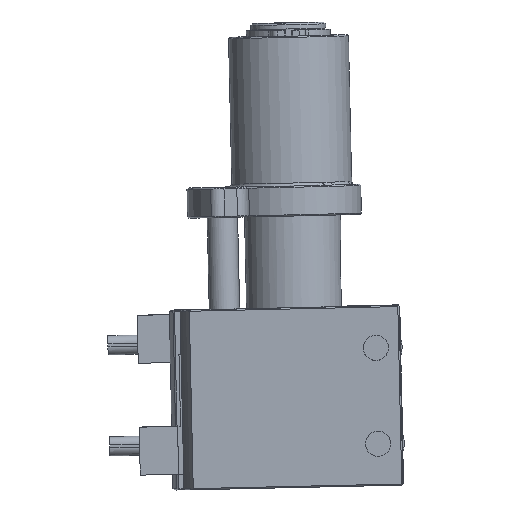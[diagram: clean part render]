
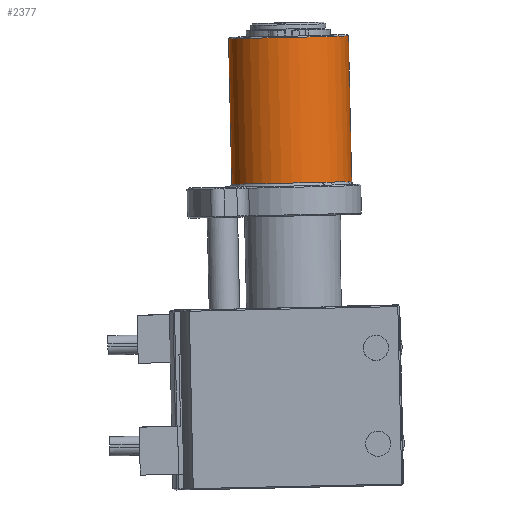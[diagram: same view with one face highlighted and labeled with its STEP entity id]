
A CAD part, top view. The second image highlights one B-rep face of the part: STEP entity #2377.
In plain terms, the highlighted cylindrical face has radius 10 mm (diameter 20 mm), a partial arc.
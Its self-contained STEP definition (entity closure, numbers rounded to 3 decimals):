
#559 = CIRCLE ( 'NONE', #2722, 10. ) ;
#596 = VECTOR ( 'NONE', #5015, 1000. ) ;
#732 = CARTESIAN_POINT ( 'NONE',  ( -6.629, 50.558, 29.319 ) ) ;
#1621 = ORIENTED_EDGE ( 'NONE', *, *, #10877, .T. ) ;
#2079 = EDGE_LOOP ( 'NONE', ( #1621, #3554, #11123, #11951 ) ) ;
#2377 = ADVANCED_FACE ( 'NONE', ( #14337 ), #13502, .T. ) ;
#2722 = AXIS2_PLACEMENT_3D ( 'NONE', #13330, #5371, #14675 ) ;
#3468 = AXIS2_PLACEMENT_3D ( 'NONE', #11946, #11982, #12008 ) ;
#3554 = ORIENTED_EDGE ( 'NONE', *, *, #13833, .T. ) ;
#3845 = DIRECTION ( 'NONE',  ( 0.022, -1., -0.006 ) ) ;
#4216 = CARTESIAN_POINT ( 'NONE',  ( 2.828, 75.074, 29.46 ) ) ;
#4482 = DIRECTION ( 'NONE',  ( 1., 0.022, 0. ) ) ;
#4510 = LINE ( 'NONE', #13937, #15539 ) ;
#4583 = DIRECTION ( 'NONE',  ( 0.022, -1., -0.006 ) ) ;
#5015 = DIRECTION ( 'NONE',  ( 0.022, -1., -0.006 ) ) ;
#5371 = DIRECTION ( 'NONE',  ( 0.022, -1., -0.006 ) ) ;
#6646 = VERTEX_POINT ( 'NONE', #13110 ) ;
#7275 = LINE ( 'NONE', #12966, #596 ) ;
#9473 = CIRCLE ( 'NONE', #3468, 10. ) ;
#9997 = VERTEX_POINT ( 'NONE', #16697 ) ;
#10877 = EDGE_CURVE ( 'NONE', #6646, #9997, #9473, .T. ) ;
#11123 = ORIENTED_EDGE ( 'NONE', *, *, #15460, .F. ) ;
#11549 = AXIS2_PLACEMENT_3D ( 'NONE', #4216, #3845, #4482 ) ;
#11946 = CARTESIAN_POINT ( 'NONE',  ( 2.828, 75.074, 29.46 ) ) ;
#11951 = ORIENTED_EDGE ( 'NONE', *, *, #17058, .F. ) ;
#11982 = DIRECTION ( 'NONE',  ( 0.022, -1., -0.006 ) ) ;
#12008 = DIRECTION ( 'NONE',  ( -0.006, -0.006, 1. ) ) ;
#12675 = VERTEX_POINT ( 'NONE', #13176 ) ;
#12966 = CARTESIAN_POINT ( 'NONE',  ( -7.17, 74.852, 29.46 ) ) ;
#13110 = CARTESIAN_POINT ( 'NONE',  ( 12.826, 75.297, 29.46 ) ) ;
#13176 = CARTESIAN_POINT ( 'NONE',  ( 13.366, 51.003, 29.319 ) ) ;
#13330 = CARTESIAN_POINT ( 'NONE',  ( 3.368, 50.781, 29.319 ) ) ;
#13502 = CYLINDRICAL_SURFACE ( 'NONE', #11549, 10. ) ;
#13833 = EDGE_CURVE ( 'NONE', #9997, #16411, #7275, .T. ) ;
#13937 = CARTESIAN_POINT ( 'NONE',  ( 12.826, 75.297, 29.46 ) ) ;
#14337 = FACE_OUTER_BOUND ( 'NONE', #2079, .T. ) ;
#14675 = DIRECTION ( 'NONE',  ( -0.006, -0.006, 1. ) ) ;
#15460 = EDGE_CURVE ( 'NONE', #12675, #16411, #559, .T. ) ;
#15539 = VECTOR ( 'NONE', #4583, 1000. ) ;
#16411 = VERTEX_POINT ( 'NONE', #732 ) ;
#16697 = CARTESIAN_POINT ( 'NONE',  ( -7.17, 74.852, 29.46 ) ) ;
#17058 = EDGE_CURVE ( 'NONE', #6646, #12675, #4510, .T. ) ;
